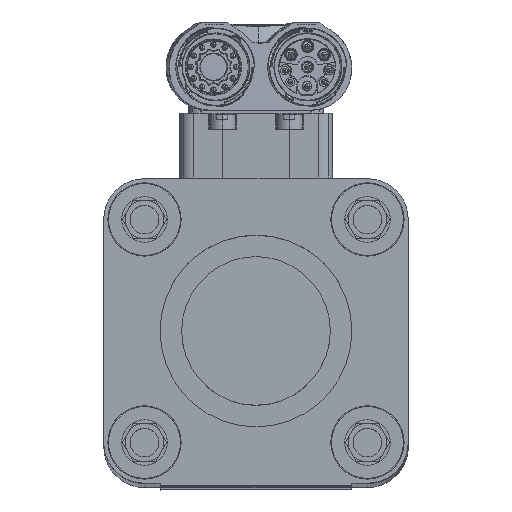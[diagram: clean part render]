
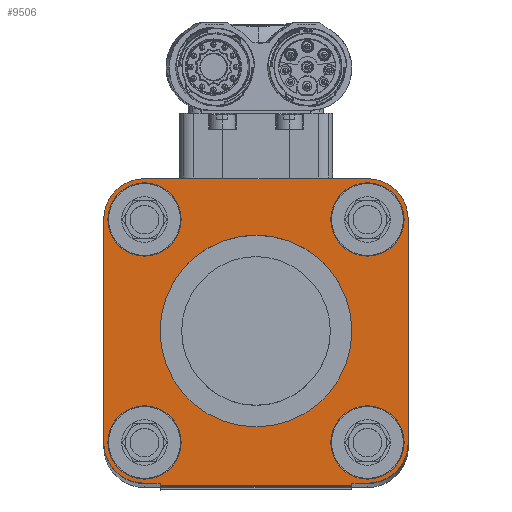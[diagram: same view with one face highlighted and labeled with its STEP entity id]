
A CAD part, left-side view. The second image highlights one B-rep face of the part: STEP entity #9506.
In plain terms, the highlighted planar face has unit normal (-1, 0, 0.002) as drawn and (0, 0, 1) by its records, which use the part's own axes.
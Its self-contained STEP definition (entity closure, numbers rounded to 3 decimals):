
#9506=ADVANCED_FACE('10:20',(#18367,#18368,#18369,#18370,#18371,#18372),#18373,.T.);
#18367=FACE_BOUND('',#44860,.T.);
#18368=FACE_BOUND('',#44861,.T.);
#18369=FACE_BOUND('',#44862,.T.);
#18370=FACE_BOUND('',#44863,.T.);
#18371=FACE_BOUND('',#44864,.T.);
#18372=FACE_OUTER_BOUND('',#44865,.T.);
#18373=PLANE('',#44866);
#44860=EDGE_LOOP('',(#66157,#66158));
#44861=EDGE_LOOP('',(#66159,#66160));
#44862=EDGE_LOOP('',(#66161,#66162));
#44863=EDGE_LOOP('',(#66163,#66164));
#44864=EDGE_LOOP('',(#66165,#66166));
#44865=EDGE_LOOP('',(#66167,#66168,#66169,#66170,#66171,#66172,#66173,#66174,#66175,#66176,#66177,#66178,#66179,#66180,#66181,#66182));
#44866=AXIS2_PLACEMENT_3D('',#66183,#66184,#66185);
#66157=ORIENTED_EDGE('',*,*,#81183,.F.);
#66158=ORIENTED_EDGE('',*,*,#81184,.F.);
#66159=ORIENTED_EDGE('',*,*,#81185,.F.);
#66160=ORIENTED_EDGE('',*,*,#81186,.F.);
#66161=ORIENTED_EDGE('',*,*,#81187,.F.);
#66162=ORIENTED_EDGE('',*,*,#77555,.F.);
#66163=ORIENTED_EDGE('',*,*,#81131,.F.);
#66164=ORIENTED_EDGE('',*,*,#77110,.F.);
#66165=ORIENTED_EDGE('',*,*,#75582,.F.);
#66166=ORIENTED_EDGE('',*,*,#81188,.F.);
#66167=ORIENTED_EDGE('',*,*,#76864,.F.);
#66168=ORIENTED_EDGE('',*,*,#75324,.F.);
#66169=ORIENTED_EDGE('',*,*,#79300,.F.);
#66170=ORIENTED_EDGE('',*,*,#81189,.F.);
#66171=ORIENTED_EDGE('',*,*,#79356,.F.);
#66172=ORIENTED_EDGE('',*,*,#80236,.F.);
#66173=ORIENTED_EDGE('',*,*,#81190,.F.);
#66174=ORIENTED_EDGE('',*,*,#81191,.F.);
#66175=ORIENTED_EDGE('',*,*,#76143,.F.);
#66176=ORIENTED_EDGE('',*,*,#73625,.F.);
#66177=ORIENTED_EDGE('',*,*,#81192,.F.);
#66178=ORIENTED_EDGE('',*,*,#81193,.F.);
#66179=ORIENTED_EDGE('',*,*,#81194,.F.);
#66180=ORIENTED_EDGE('',*,*,#81195,.F.);
#66181=ORIENTED_EDGE('',*,*,#81196,.F.);
#66182=ORIENTED_EDGE('',*,*,#76619,.F.);
#66183=CARTESIAN_POINT('',(0.0,0.0,34.0));
#66184=DIRECTION('',(0.0,0.0,1.0));
#66185=DIRECTION('',(1.0,0.0,0.0));
#73625=EDGE_CURVE('0:1747',#87804,#87800,#87806,.F.);
#75324=EDGE_CURVE('0:863',#90730,#90726,#90732,.F.);
#75582=EDGE_CURVE('0:1525',#91183,#91179,#91185,.F.);
#76143=EDGE_CURVE('',#87800,#92154,#92155,.F.);
#76619=EDGE_CURVE('',#92961,#92963,#92964,.F.);
#76864=EDGE_CURVE('0:1801',#90726,#92961,#93380,.F.);
#77110=EDGE_CURVE('',#93808,#93810,#93811,.F.);
#77555=EDGE_CURVE('',#94576,#94578,#94579,.F.);
#79300=EDGE_CURVE('',#97571,#90730,#97573,.F.);
#79356=EDGE_CURVE('0:854',#97659,#97655,#97661,.F.);
#80236=EDGE_CURVE('',#99162,#97659,#99164,.F.);
#81131=EDGE_CURVE('0:1551',#93810,#93808,#100679,.F.);
#81183=EDGE_CURVE('10:253',#100768,#100769,#100770,.T.);
#81184=EDGE_CURVE('',#100769,#100768,#100771,.T.);
#81185=EDGE_CURVE('0:1577',#100772,#100773,#100774,.F.);
#81186=EDGE_CURVE('',#100773,#100772,#100775,.F.);
#81187=EDGE_CURVE('0:1603',#94578,#94576,#100776,.F.);
#81188=EDGE_CURVE('',#91179,#91183,#100777,.F.);
#81189=EDGE_CURVE('0:1695',#97655,#97571,#100778,.F.);
#81190=EDGE_CURVE('0:1637',#100779,#99162,#100780,.F.);
#81191=EDGE_CURVE('0:845',#92154,#100779,#100781,.F.);
#81192=EDGE_CURVE('13:44',#100782,#87804,#100783,.F.);
#81193=EDGE_CURVE('13:385',#100784,#100782,#100785,.T.);
#81194=EDGE_CURVE('13:394',#100786,#100784,#100787,.T.);
#81195=EDGE_CURVE('13:400',#100788,#100786,#100789,.T.);
#81196=EDGE_CURVE('13:41',#92963,#100788,#100790,.F.);
#87800=VERTEX_POINT('',#112405);
#87804=VERTEX_POINT('',#112410);
#87806=CIRCLE('',#112413,8.5);
#90726=VERTEX_POINT('',#117972);
#90730=VERTEX_POINT('',#117978);
#90732=LINE('',#117981,#117982);
#91179=VERTEX_POINT('',#118948);
#91183=VERTEX_POINT('',#118953);
#91185=CIRCLE('',#118956,7.65);
#92154=VERTEX_POINT('',#120792);
#92155=CIRCLE('',#120793,8.5);
#92961=VERTEX_POINT('',#122479);
#92963=VERTEX_POINT('',#122482);
#92964=CIRCLE('',#122483,8.5);
#93380=CIRCLE('',#123404,8.5);
#93808=VERTEX_POINT('',#124073);
#93810=VERTEX_POINT('',#124076);
#93811=CIRCLE('',#124077,7.65);
#94576=VERTEX_POINT('',#125510);
#94578=VERTEX_POINT('',#125513);
#94579=CIRCLE('',#125514,7.65);
#97571=VERTEX_POINT('',#131210);
#97573=CIRCLE('',#131213,8.5);
#97655=VERTEX_POINT('',#131359);
#97659=VERTEX_POINT('',#131365);
#97661=LINE('',#131368,#131369);
#99162=VERTEX_POINT('',#134236);
#99164=CIRCLE('',#134239,8.5);
#100679=CIRCLE('',#137167,7.65);
#100768=VERTEX_POINT('',#137347);
#100769=VERTEX_POINT('',#137348);
#100770=CIRCLE('',#137349,20.0);
#100771=CIRCLE('',#137350,20.0);
#100772=VERTEX_POINT('',#137351);
#100773=VERTEX_POINT('',#137352);
#100774=CIRCLE('',#137353,7.65);
#100775=CIRCLE('',#137354,7.65);
#100776=CIRCLE('',#137355,7.65);
#100777=CIRCLE('',#137356,7.65);
#100778=CIRCLE('',#137357,8.5);
#100779=VERTEX_POINT('',#137358);
#100780=CIRCLE('',#137359,8.5);
#100781=LINE('',#137360,#137361);
#100782=VERTEX_POINT('',#137362);
#100783=LINE('',#137363,#137364);
#100784=VERTEX_POINT('',#137365);
#100785=LINE('',#137366,#137367);
#100786=VERTEX_POINT('',#137368);
#100787=LINE('',#137369,#137370);
#100788=VERTEX_POINT('',#137371);
#100789=LINE('',#137372,#137373);
#100790=LINE('',#137374,#137375);
#112405=CARTESIAN_POINT('',(-13.451,-42.647,34.0));
#112410=CARTESIAN_POINT('',(-7.441,-45.136,34.0));
#112413=AXIS2_PLACEMENT_3D('',#150536,#150537,#150538);
#117972=CARTESIAN_POINT('',(47.559,-36.636,34.0));
#117978=CARTESIAN_POINT('',(47.559,9.864,34.0));
#117981=CARTESIAN_POINT('',(47.559,-6.693,34.0));
#117982=VECTOR('',#152431,1.0);
#118948=CARTESIAN_POINT('',(0.209,9.864,34.0));
#118953=CARTESIAN_POINT('',(-15.091,9.864,34.0));
#118956=AXIS2_PLACEMENT_3D('',#152685,#152686,#152687);
#120792=CARTESIAN_POINT('',(-15.941,-36.636,34.0));
#120793=AXIS2_PLACEMENT_3D('',#153350,#153351,#153352);
#122479=CARTESIAN_POINT('',(45.069,-42.647,34.0));
#122482=CARTESIAN_POINT('',(39.059,-45.136,34.0));
#122483=AXIS2_PLACEMENT_3D('',#153783,#153784,#153785);
#123404=AXIS2_PLACEMENT_3D('',#154040,#154041,#154042);
#124073=CARTESIAN_POINT('',(46.709,9.864,34.0));
#124076=CARTESIAN_POINT('',(31.409,9.864,34.0));
#124077=AXIS2_PLACEMENT_3D('',#154456,#154457,#154458);
#125510=CARTESIAN_POINT('',(0.209,-36.636,34.0));
#125513=CARTESIAN_POINT('',(-15.091,-36.636,34.0));
#125514=AXIS2_PLACEMENT_3D('',#154937,#154938,#154939);
#131210=CARTESIAN_POINT('',(45.069,15.874,34.0));
#131213=AXIS2_PLACEMENT_3D('',#156954,#156955,#156956);
#131359=CARTESIAN_POINT('',(39.059,18.364,34.0));
#131365=CARTESIAN_POINT('',(-7.441,18.364,34.0));
#131368=CARTESIAN_POINT('',(7.904,18.364,34.0));
#131369=VECTOR('',#157009,1.0);
#134236=CARTESIAN_POINT('',(-13.451,15.874,34.0));
#134239=AXIS2_PLACEMENT_3D('',#157993,#157994,#157995);
#137167=AXIS2_PLACEMENT_3D('',#159046,#159047,#159048);
#137347=CARTESIAN_POINT('',(-4.191,-13.386,34.0));
#137348=CARTESIAN_POINT('',(35.809,-13.386,34.0));
#137349=AXIS2_PLACEMENT_3D('',#159102,#159103,#159104);
#137350=AXIS2_PLACEMENT_3D('',#159105,#159106,#159107);
#137351=CARTESIAN_POINT('',(31.409,-36.636,34.0));
#137352=CARTESIAN_POINT('',(46.709,-36.636,34.0));
#137353=AXIS2_PLACEMENT_3D('',#159108,#159109,#159110);
#137354=AXIS2_PLACEMENT_3D('',#159111,#159112,#159113);
#137355=AXIS2_PLACEMENT_3D('',#159114,#159115,#159116);
#137356=AXIS2_PLACEMENT_3D('',#159117,#159118,#159119);
#137357=AXIS2_PLACEMENT_3D('',#159120,#159121,#159122);
#137358=CARTESIAN_POINT('',(-15.941,9.864,34.0));
#137359=AXIS2_PLACEMENT_3D('',#159123,#159124,#159125);
#137360=CARTESIAN_POINT('',(-15.941,-6.693,34.0));
#137361=VECTOR('',#159126,1.0);
#137362=CARTESIAN_POINT('',(-4.191,-45.136,34.0));
#137363=CARTESIAN_POINT('',(7.904,-45.136,34.0));
#137364=VECTOR('',#159127,1.0);
#137365=CARTESIAN_POINT('',(-4.191,-45.636,34.0));
#137366=CARTESIAN_POINT('',(-4.191,-45.636,34.0));
#137367=VECTOR('',#159128,1.0);
#137368=CARTESIAN_POINT('',(35.809,-45.636,34.0));
#137369=CARTESIAN_POINT('',(35.809,-45.636,34.0));
#137370=VECTOR('',#159129,1.0);
#137371=CARTESIAN_POINT('',(35.809,-45.136,34.0));
#137372=CARTESIAN_POINT('',(35.809,-45.136,34.0));
#137373=VECTOR('',#159130,1.0);
#137374=CARTESIAN_POINT('',(7.904,-45.136,34.0));
#137375=VECTOR('',#159131,1.0);
#150536=CARTESIAN_POINT('',(-7.441,-36.636,34.0));
#150537=DIRECTION('',(0.0,0.0,1.0));
#150538=DIRECTION('',(-0.707,-0.707,0.0));
#152431=DIRECTION('',(-0.0,1.0,0.0));
#152685=CARTESIAN_POINT('',(-7.441,9.864,34.0));
#152686=DIRECTION('',(0.0,0.0,-1.0));
#152687=DIRECTION('',(1.0,0.0,0.0));
#153350=CARTESIAN_POINT('',(-7.441,-36.636,34.0));
#153351=DIRECTION('',(0.0,0.0,1.0));
#153352=DIRECTION('',(-0.707,-0.707,0.0));
#153783=CARTESIAN_POINT('',(39.059,-36.636,34.0));
#153784=DIRECTION('',(0.0,0.0,1.0));
#153785=DIRECTION('',(0.707,-0.707,0.0));
#154040=CARTESIAN_POINT('',(39.059,-36.636,34.0));
#154041=DIRECTION('',(0.0,0.0,1.0));
#154042=DIRECTION('',(0.707,-0.707,0.0));
#154456=CARTESIAN_POINT('',(39.059,9.864,34.0));
#154457=DIRECTION('',(0.0,0.0,-1.0));
#154458=DIRECTION('',(1.0,0.0,0.0));
#154937=CARTESIAN_POINT('',(-7.441,-36.636,34.0));
#154938=DIRECTION('',(0.0,0.0,-1.0));
#154939=DIRECTION('',(1.0,0.0,0.0));
#156954=CARTESIAN_POINT('',(39.059,9.864,34.0));
#156955=DIRECTION('',(0.0,-0.0,1.0));
#156956=DIRECTION('',(0.707,0.707,0.0));
#157009=DIRECTION('',(-1.0,0.0,0.0));
#157993=CARTESIAN_POINT('',(-7.441,9.864,34.0));
#157994=DIRECTION('',(0.0,0.0,1.0));
#157995=DIRECTION('',(-0.707,0.707,0.0));
#159046=CARTESIAN_POINT('',(39.059,9.864,34.0));
#159047=DIRECTION('',(0.0,0.0,-1.0));
#159048=DIRECTION('',(1.0,0.0,0.0));
#159102=CARTESIAN_POINT('',(15.809,-13.386,34.0));
#159103=DIRECTION('',(0.0,0.0,1.0));
#159104=DIRECTION('',(1.0,0.0,-0.0));
#159105=CARTESIAN_POINT('',(15.809,-13.386,34.0));
#159106=DIRECTION('',(0.0,0.0,1.0));
#159107=DIRECTION('',(1.0,0.0,-0.0));
#159108=CARTESIAN_POINT('',(39.059,-36.636,34.0));
#159109=DIRECTION('',(0.0,0.0,-1.0));
#159110=DIRECTION('',(1.0,0.0,0.0));
#159111=CARTESIAN_POINT('',(39.059,-36.636,34.0));
#159112=DIRECTION('',(0.0,0.0,-1.0));
#159113=DIRECTION('',(1.0,0.0,0.0));
#159114=CARTESIAN_POINT('',(-7.441,-36.636,34.0));
#159115=DIRECTION('',(0.0,0.0,-1.0));
#159116=DIRECTION('',(1.0,0.0,0.0));
#159117=CARTESIAN_POINT('',(-7.441,9.864,34.0));
#159118=DIRECTION('',(0.0,0.0,-1.0));
#159119=DIRECTION('',(1.0,0.0,0.0));
#159120=CARTESIAN_POINT('',(39.059,9.864,34.0));
#159121=DIRECTION('',(0.0,-0.0,1.0));
#159122=DIRECTION('',(0.707,0.707,0.0));
#159123=CARTESIAN_POINT('',(-7.441,9.864,34.0));
#159124=DIRECTION('',(0.0,0.0,1.0));
#159125=DIRECTION('',(-0.707,0.707,0.0));
#159126=DIRECTION('',(0.0,-1.0,0.0));
#159127=DIRECTION('',(1.0,0.0,-0.0));
#159128=DIRECTION('',(0.0,1.0,0.0));
#159129=DIRECTION('',(-1.0,0.0,0.0));
#159130=DIRECTION('',(0.0,-1.0,0.0));
#159131=DIRECTION('',(1.0,0.0,-0.0));
